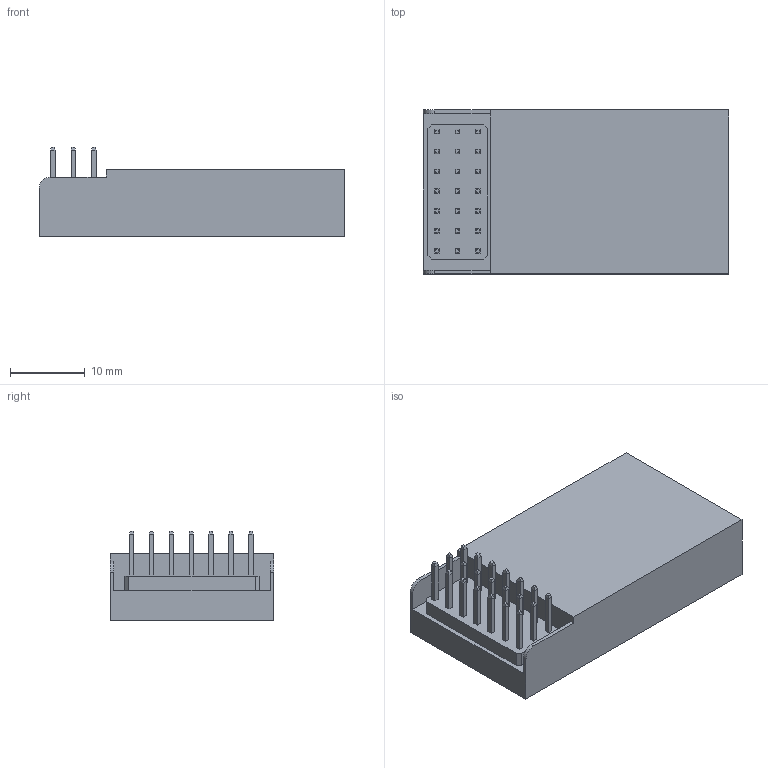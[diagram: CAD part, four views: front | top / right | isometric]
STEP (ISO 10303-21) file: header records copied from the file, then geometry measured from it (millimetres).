
FILE_DESCRIPTION(/* description */ (''),/* implementation_level */ '2;1');
FILE_NAME(/* name */ 'Reely HR-6 Empfnger v1.step',/* time_stamp */ '2022-12-02T20:41:21+01:00',/* author */ (''),/* organization */ (''),/* preprocessor_version */ 'ST-DEVELOPER v19.2',/* originating_system */ 'Autodesk Translation Framework v11.17.0.187',/* authorisation */ '');
FILE_SCHEMA (('AUTOMOTIVE_DESIGN { 1 0 10303 214 3 1 1 }'));
Length unit declared in the file: millimetre
Products named in the file (1): Reely HR-6 Empfänger
Bounding box: 41 x 22 x 12 mm (x, y, z)
Volume: 7493.4 mm3; surface area: 3407.8 mm2
Topology: 22 solids, 22 shells, 237 faces, 486 edges, 296 vertices
Faces by surface type: plane 233, cylinder 4
Full cylindrical faces by diameter (mm): 1 x2
Entity records: 6008 total; most frequent: CARTESIAN_POINT 1020, ORIENTED_EDGE 972, DIRECTION 970, EDGE_CURVE 486, LINE 478, VECTOR 478, VERTEX_POINT 296, AXIS2_PLACEMENT_3D 246
